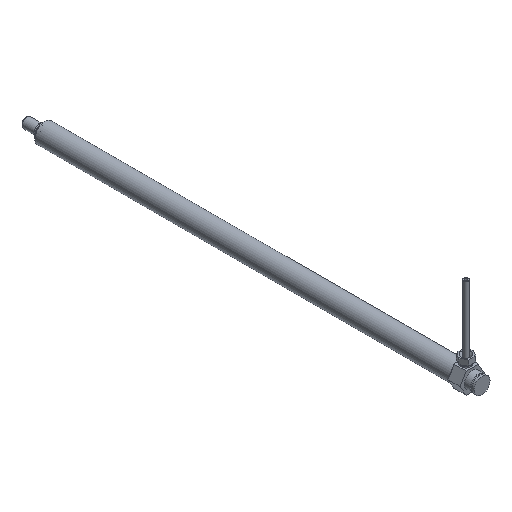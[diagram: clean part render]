
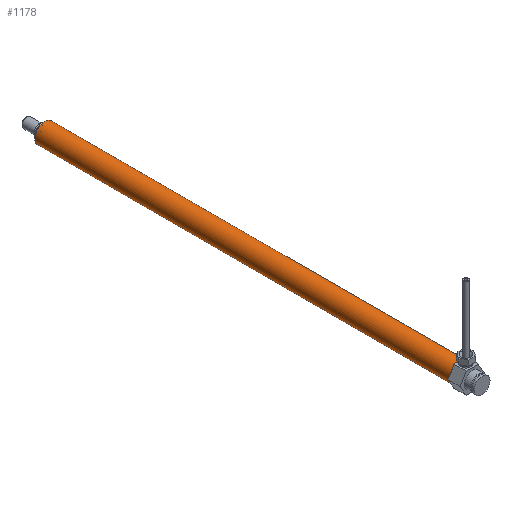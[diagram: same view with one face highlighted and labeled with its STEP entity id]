
A CAD part, isometric view. The second image highlights one B-rep face of the part: STEP entity #1178.
In plain terms, the highlighted cylindrical face has radius 8 mm (diameter 16 mm), a full revolution.
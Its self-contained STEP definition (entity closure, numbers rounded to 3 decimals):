
#183=CYLINDRICAL_SURFACE('',#1894,8.);
#219=ORIENTED_EDGE('',*,*,#470,.F.);
#220=ORIENTED_EDGE('',*,*,#474,.T.);
#470=EDGE_CURVE('',#599,#599,#712,.T.);
#474=EDGE_CURVE('',#603,#603,#716,.T.);
#599=VERTEX_POINT('',#2479);
#603=VERTEX_POINT('',#2490);
#712=CIRCLE('',#1886,8.);
#716=CIRCLE('',#1893,8.);
#798=EDGE_LOOP('',(#219));
#799=EDGE_LOOP('',(#220));
#970=FACE_BOUND('',#798,.T.);
#971=FACE_BOUND('',#799,.T.);
#1178=ADVANCED_FACE('',(#970,#971),#183,.T.);
#1886=AXIS2_PLACEMENT_3D('',#2478,#2074,#2075);
#1893=AXIS2_PLACEMENT_3D('',#2489,#2088,#2089);
#1894=AXIS2_PLACEMENT_3D('',#2491,#2090,#2091);
#2074=DIRECTION('',(-1.,0.,0.));
#2075=DIRECTION('',(0.,0.,1.));
#2088=DIRECTION('',(-1.,0.,0.));
#2089=DIRECTION('',(0.,0.,1.));
#2090=DIRECTION('',(-1.,0.,0.));
#2091=DIRECTION('',(0.,0.,1.));
#2478=CARTESIAN_POINT('',(0.,0.,0.));
#2479=CARTESIAN_POINT('',(0.,0.,8.));
#2489=CARTESIAN_POINT('',(338.,0.,0.));
#2490=CARTESIAN_POINT('',(338.,0.,8.));
#2491=CARTESIAN_POINT('',(-60.,0.,0.));
